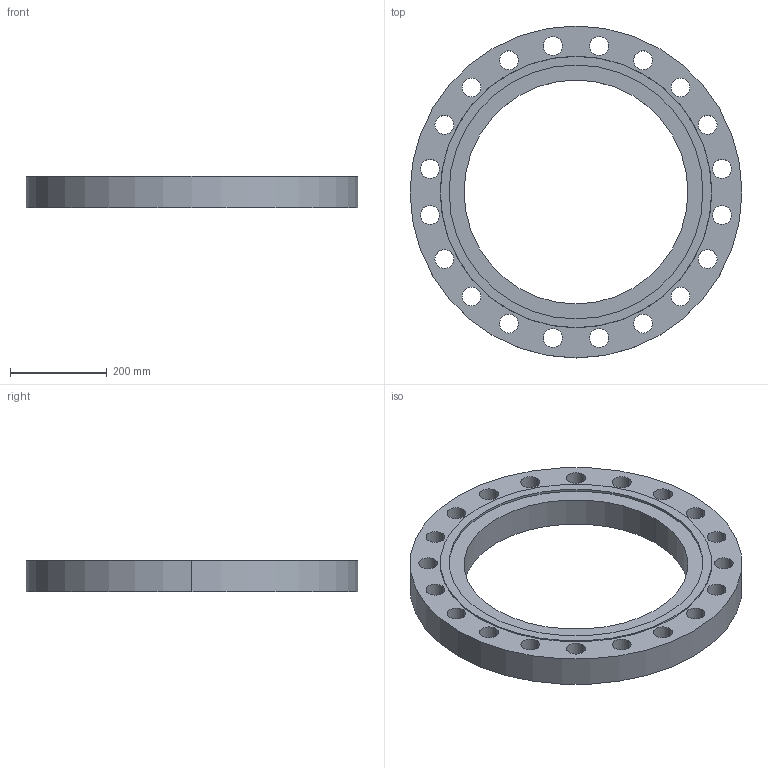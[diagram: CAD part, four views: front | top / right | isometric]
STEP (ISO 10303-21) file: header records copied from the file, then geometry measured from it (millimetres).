
FILE_DESCRIPTION (( 'STEP AP214' ), '1' );
FILE_NAME ('PN40 DN450 Type 01 - Type F Face.STEP', '2018-12-29T02:51:10', ( '' ), ( '' ), 'SwSTEP 2.0', 'SolidWorks 2019', '' );
FILE_SCHEMA (( 'AUTOMOTIVE_DESIGN' ));
Length unit declared in the file: millimetre
Products named in the file (1): PN40 DN450 Type 01 - Type F Face
Bounding box: 685 x 685 x 66 mm (x, y, z)
Volume: 11245759.9 mm3; surface area: 748273.6 mm2
Topology: 1 solids, 1 shells, 52 faces, 144 edges, 96 vertices
Faces by surface type: cylinder 46, plane 4, cone 2
Entity records: 1842 total; most frequent: DIRECTION 346, CARTESIAN_POINT 293, ORIENTED_EDGE 288, AXIS2_PLACEMENT_3D 149, EDGE_CURVE 144, EDGE_LOOP 96, CIRCLE 96, VERTEX_POINT 96
